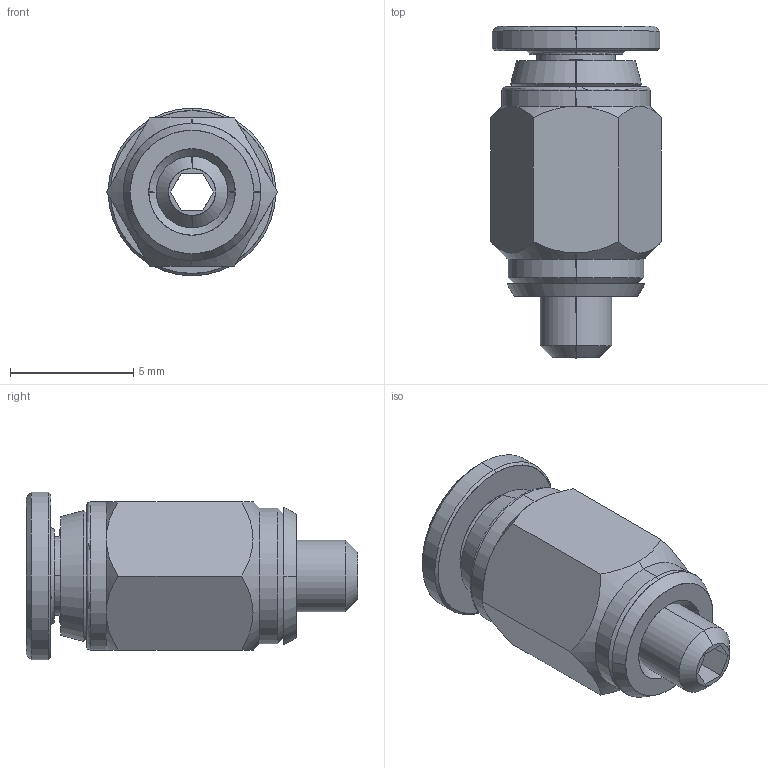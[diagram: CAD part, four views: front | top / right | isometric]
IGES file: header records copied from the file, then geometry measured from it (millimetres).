
Start section: SolidWorks IGES file using analytic representation for surfaces
Global section: file name: C:\Users\cad06\Desktop\Nuova cartella\56020\5602000003.IGS; native system: SolidWorks 2016; preprocessor: SolidWorks 2016; author: cad06; date: 160524.090432; units: millimetre
Bounding box: 6.93 x 13.45 x 6.8 mm (x, y, z)
Surface area: 455 mm2 (no closed solid volume)
Topology: 0 solids, 0 shells, 73 faces, 840 edges, 840 vertices
Faces by surface type: revolution 42, bspline 31
